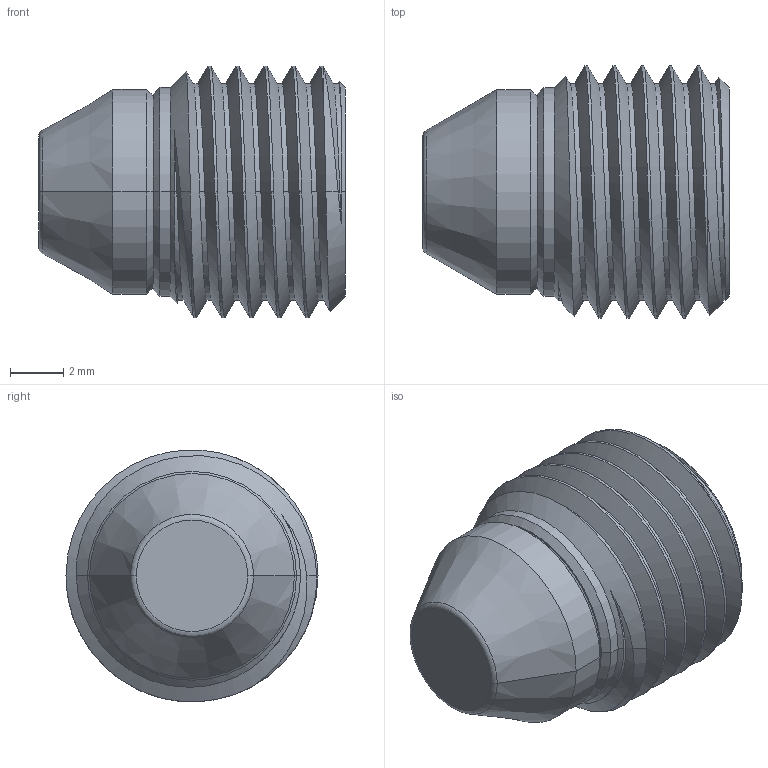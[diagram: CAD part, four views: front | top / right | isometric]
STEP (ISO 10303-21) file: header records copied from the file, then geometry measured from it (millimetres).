
FILE_DESCRIPTION(('CoCreate Modeling STEP Export'),'2;1');
FILE_NAME('PLAA3724010A.stp','2011-12-30T 9:27:23',(''),(''),'CoCreate Modeling STEP processor for AP214 (Solid Model)','CoCreate Modeling 17.0 01-Apr-2010 (C) Parametric Technology GmbH','');
FILE_SCHEMA(('AUTOMOTIVE_DESIGN { 1 0 10303 214 1 1 1 1 }'));
Length unit declared in the file: millimetre
Products named in the file (1): PLAA3724010A
Bounding box: 11.56 x 9.5 x 9.49 mm (x, y, z)
Volume: 496.8 mm3; surface area: 551.9 mm2
Topology: 1 solids, 1 shells, 56 faces, 142 edges, 90 vertices
Faces by surface type: cylinder 28, cone 14, plane 10, torus 2, bspline 2
Entity records: 3667 total; most frequent: CARTESIAN_POINT 2674, ORIENTED_EDGE 284, EDGE_CURVE 142, DIRECTION 108, VERTEX_POINT 90, EDGE_LOOP 58, FACE_OUTER_BOUND 56, ADVANCED_FACE 56
